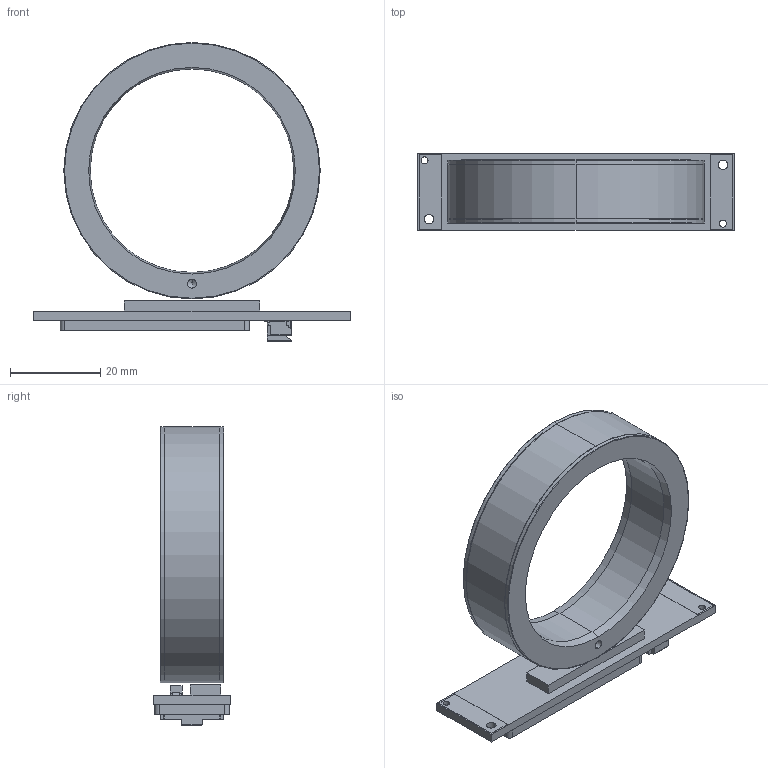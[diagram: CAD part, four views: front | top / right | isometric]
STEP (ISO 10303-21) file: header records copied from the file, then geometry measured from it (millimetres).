
FILE_DESCRIPTION (( 'STEP AP214' ), '1' );
FILE_NAME ('DBRxHx_SAR057_exposed.STEP', '2024-02-02T10:57:06', ( '' ), ( '' ), 'SwSTEP 2.0', 'SolidWorks 2022', '' );
FILE_SCHEMA (( 'AUTOMOTIVE_DESIGN' ));
Length unit declared in the file: millimetre
Products named in the file (1): DBRxHx_SAR057_exposed
Bounding box: 70 x 17 x 66.12 mm (x, y, z)
Volume: 12952.8 mm3; surface area: 10167.7 mm2
Topology: 1 solids, 2 shells, 1551 faces, 4332 edges, 2873 vertices
Faces by surface type: plane 1209, bspline 203, cylinder 115, cone 12, torus 8, sphere 4
Entity records: 77141 total; most frequent: CARTESIAN_POINT 24924, ORIENTED_EDGE 8642, DIRECTION 4961, EDGE_CURVE 4321, VERTEX_POINT 2872, B_SPLINE_CURVE_WITH_KNOTS 2158, VECTOR 2063, LINE 2063
